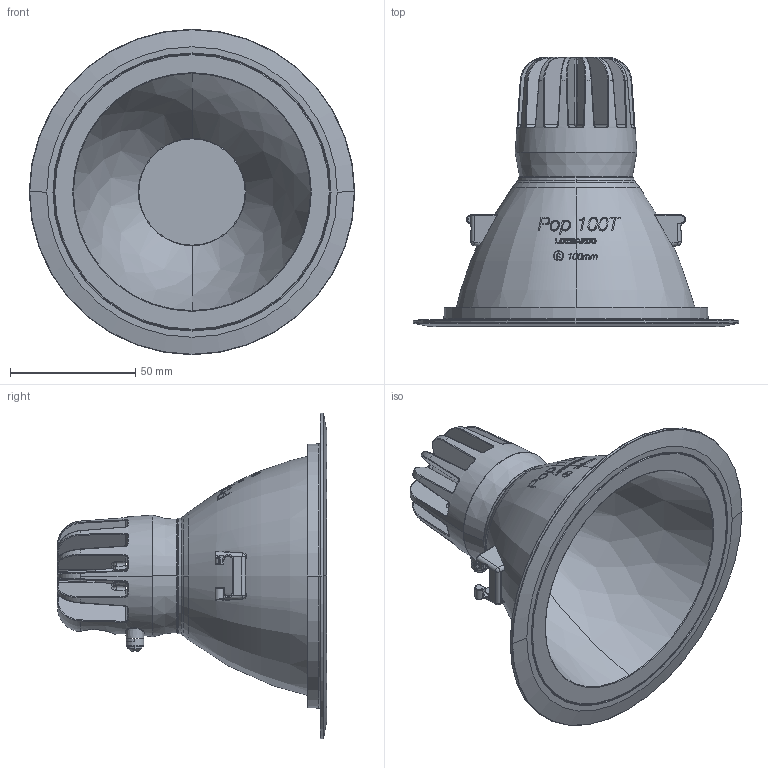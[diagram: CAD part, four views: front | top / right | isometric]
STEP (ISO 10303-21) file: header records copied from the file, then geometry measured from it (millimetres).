
FILE_DESCRIPTION((''),'2;1');
FILE_NAME('PRT0001','2025-07-28T09:52:21',('Piccioli'),(''),'CREO PARAMETRIC BY PTC INC, 2025010','CREO PARAMETRIC BY PTC INC, 2025010','');
FILE_SCHEMA(('CONFIG_CONTROL_DESIGN'));
Products named in the file (1): PRT0001
Bounding box: 129.99 x 107.58 x 129.99 mm (x, y, z)
Surface area: 73477.6 mm2 (no closed solid volume)
Topology: 0 solids, 46 shells, 612 faces, 2330 edges, 1725 vertices
Faces by surface type: bspline 185, cylinder 133, plane 123, torus 63, revolution 44, cone 43, sphere 16, extrusion 5
Entity records: 50408 total; most frequent: CARTESIAN_POINT 33725, ORIENTED_EDGE 3536, DIRECTION 2675, EDGE_CURVE 2330, VERTEX_POINT 1725, B_SPLINE_CURVE_WITH_KNOTS 1226, AXIS2_PLACEMENT_3D 1095, CIRCLE 717
